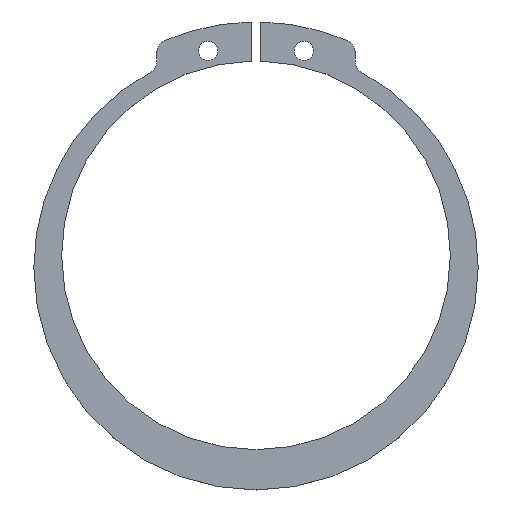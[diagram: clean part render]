
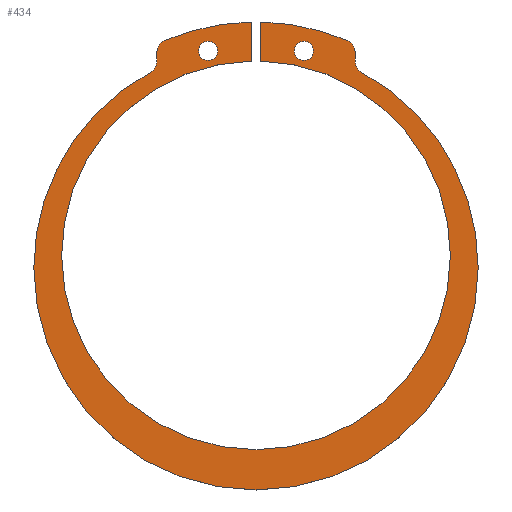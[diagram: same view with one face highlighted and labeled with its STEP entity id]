
A CAD part, top view. The second image highlights one B-rep face of the part: STEP entity #434.
In plain terms, the highlighted planar face has unit normal (0, 0, 1).
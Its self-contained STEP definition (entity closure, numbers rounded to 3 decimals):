
#70=CARTESIAN_POINT('Vertex',(-14.28,33.699,1.25)) ;
#73=CARTESIAN_POINT('Axis2P3D Location',(0.,0.,1.25)) ;
#77=CARTESIAN_POINT('Vertex',(-0.75,36.592,1.25)) ;
#264=CARTESIAN_POINT('Vertex',(-15.5,31.858,1.25)) ;
#267=CARTESIAN_POINT('Axis2P3D Location',(-13.5,31.858,1.25)) ;
#279=CARTESIAN_POINT('Axis2P3D Location',(-17.5,30.466,1.25)) ;
#284=CARTESIAN_POINT('Axis2P3D Location',(-17.5,30.466,1.25)) ;
#288=CARTESIAN_POINT('Vertex',(-16.548,28.707,1.25)) ;
#290=CARTESIAN_POINT('Vertex',(-15.5,30.466,1.25)) ;
#293=CARTESIAN_POINT('Axis2P3D Location',(0.,-1.85,1.25)) ;
#297=CARTESIAN_POINT('Vertex',(-34.75,-1.85,1.25)) ;
#300=CARTESIAN_POINT('Axis2P3D Location',(0.,-1.85,1.25)) ;
#304=CARTESIAN_POINT('Vertex',(34.75,-1.85,1.25)) ;
#307=CARTESIAN_POINT('Axis2P3D Location',(0.,-1.85,1.25)) ;
#311=CARTESIAN_POINT('Vertex',(16.548,28.707,1.25)) ;
#314=CARTESIAN_POINT('Axis2P3D Location',(17.5,30.466,1.25)) ;
#318=CARTESIAN_POINT('Vertex',(15.5,30.466,1.25)) ;
#321=CARTESIAN_POINT('Line Origine',(15.5,31.162,1.25)) ;
#325=CARTESIAN_POINT('Vertex',(15.5,31.858,1.25)) ;
#328=CARTESIAN_POINT('Axis2P3D Location',(13.5,31.858,1.25)) ;
#332=CARTESIAN_POINT('Vertex',(14.28,33.699,1.25)) ;
#335=CARTESIAN_POINT('Axis2P3D Location',(0.,0.,1.25)) ;
#339=CARTESIAN_POINT('Vertex',(0.75,36.592,1.25)) ;
#342=CARTESIAN_POINT('Line Origine',(0.75,33.542,1.25)) ;
#346=CARTESIAN_POINT('Vertex',(0.75,30.491,1.25)) ;
#349=CARTESIAN_POINT('Axis2P3D Location',(0.,0.1,1.25)) ;
#353=CARTESIAN_POINT('Vertex',(30.4,0.1,1.25)) ;
#356=CARTESIAN_POINT('Axis2P3D Location',(0.,0.1,1.25)) ;
#360=CARTESIAN_POINT('Vertex',(-30.4,0.1,1.25)) ;
#363=CARTESIAN_POINT('Axis2P3D Location',(0.,0.1,1.25)) ;
#367=CARTESIAN_POINT('Vertex',(-0.75,30.491,1.25)) ;
#370=CARTESIAN_POINT('Line Origine',(-0.75,33.542,1.25)) ;
#375=CARTESIAN_POINT('Line Origine',(-15.5,31.162,1.25)) ;
#398=CARTESIAN_POINT('Axis2P3D Location',(7.5,32.081,1.25)) ;
#402=CARTESIAN_POINT('Vertex',(6.,32.081,1.25)) ;
#404=CARTESIAN_POINT('Vertex',(9.,32.081,1.25)) ;
#407=CARTESIAN_POINT('Axis2P3D Location',(7.5,32.081,1.25)) ;
#416=CARTESIAN_POINT('Axis2P3D Location',(-7.5,32.081,1.25)) ;
#420=CARTESIAN_POINT('Vertex',(-9.,32.081,1.25)) ;
#422=CARTESIAN_POINT('Vertex',(-6.,32.081,1.25)) ;
#425=CARTESIAN_POINT('Axis2P3D Location',(-7.5,32.081,1.25)) ;
#74=DIRECTION('Axis2P3D Direction',(0.,0.,1.)) ;
#268=DIRECTION('Axis2P3D Direction',(0.,0.,1.)) ;
#280=DIRECTION('Axis2P3D Direction',(0.,0.,1.)) ;
#281=DIRECTION('Axis2P3D XDirection',(1.,0.,-0.)) ;
#285=DIRECTION('Axis2P3D Direction',(0.,0.,1.)) ;
#294=DIRECTION('Axis2P3D Direction',(0.,0.,1.)) ;
#301=DIRECTION('Axis2P3D Direction',(0.,0.,1.)) ;
#308=DIRECTION('Axis2P3D Direction',(0.,0.,1.)) ;
#315=DIRECTION('Axis2P3D Direction',(0.,0.,1.)) ;
#322=DIRECTION('Vector Direction',(0.,1.,0.)) ;
#329=DIRECTION('Axis2P3D Direction',(0.,0.,1.)) ;
#336=DIRECTION('Axis2P3D Direction',(0.,0.,1.)) ;
#343=DIRECTION('Vector Direction',(0.,-1.,0.)) ;
#350=DIRECTION('Axis2P3D Direction',(0.,0.,1.)) ;
#357=DIRECTION('Axis2P3D Direction',(0.,0.,1.)) ;
#364=DIRECTION('Axis2P3D Direction',(0.,0.,1.)) ;
#371=DIRECTION('Vector Direction',(0.,1.,0.)) ;
#376=DIRECTION('Vector Direction',(0.,-1.,0.)) ;
#399=DIRECTION('Axis2P3D Direction',(0.,0.,1.)) ;
#408=DIRECTION('Axis2P3D Direction',(0.,0.,1.)) ;
#417=DIRECTION('Axis2P3D Direction',(0.,0.,1.)) ;
#426=DIRECTION('Axis2P3D Direction',(0.,0.,1.)) ;
#75=AXIS2_PLACEMENT_3D('Circle Axis2P3D',#73,#74,$) ;
#269=AXIS2_PLACEMENT_3D('Circle Axis2P3D',#267,#268,$) ;
#282=AXIS2_PLACEMENT_3D('Plane Axis2P3D',#279,#280,#281) ;
#286=AXIS2_PLACEMENT_3D('Circle Axis2P3D',#284,#285,$) ;
#295=AXIS2_PLACEMENT_3D('Circle Axis2P3D',#293,#294,$) ;
#302=AXIS2_PLACEMENT_3D('Circle Axis2P3D',#300,#301,$) ;
#309=AXIS2_PLACEMENT_3D('Circle Axis2P3D',#307,#308,$) ;
#316=AXIS2_PLACEMENT_3D('Circle Axis2P3D',#314,#315,$) ;
#330=AXIS2_PLACEMENT_3D('Circle Axis2P3D',#328,#329,$) ;
#337=AXIS2_PLACEMENT_3D('Circle Axis2P3D',#335,#336,$) ;
#351=AXIS2_PLACEMENT_3D('Circle Axis2P3D',#349,#350,$) ;
#358=AXIS2_PLACEMENT_3D('Circle Axis2P3D',#356,#357,$) ;
#365=AXIS2_PLACEMENT_3D('Circle Axis2P3D',#363,#364,$) ;
#400=AXIS2_PLACEMENT_3D('Circle Axis2P3D',#398,#399,$) ;
#409=AXIS2_PLACEMENT_3D('Circle Axis2P3D',#407,#408,$) ;
#418=AXIS2_PLACEMENT_3D('Circle Axis2P3D',#416,#417,$) ;
#427=AXIS2_PLACEMENT_3D('Circle Axis2P3D',#425,#426,$) ;
#381=ORIENTED_EDGE('',*,*,#292,.F.) ;
#382=ORIENTED_EDGE('',*,*,#299,.T.) ;
#383=ORIENTED_EDGE('',*,*,#306,.T.) ;
#384=ORIENTED_EDGE('',*,*,#313,.T.) ;
#385=ORIENTED_EDGE('',*,*,#320,.F.) ;
#386=ORIENTED_EDGE('',*,*,#327,.T.) ;
#387=ORIENTED_EDGE('',*,*,#334,.T.) ;
#388=ORIENTED_EDGE('',*,*,#341,.T.) ;
#389=ORIENTED_EDGE('',*,*,#348,.T.) ;
#390=ORIENTED_EDGE('',*,*,#355,.F.) ;
#391=ORIENTED_EDGE('',*,*,#362,.F.) ;
#392=ORIENTED_EDGE('',*,*,#369,.F.) ;
#393=ORIENTED_EDGE('',*,*,#374,.T.) ;
#394=ORIENTED_EDGE('',*,*,#79,.T.) ;
#395=ORIENTED_EDGE('',*,*,#271,.T.) ;
#396=ORIENTED_EDGE('',*,*,#379,.T.) ;
#413=ORIENTED_EDGE('',*,*,#406,.F.) ;
#414=ORIENTED_EDGE('',*,*,#411,.F.) ;
#431=ORIENTED_EDGE('',*,*,#424,.F.) ;
#432=ORIENTED_EDGE('',*,*,#429,.F.) ;
#415=FACE_BOUND('',#412,.T.) ;
#433=FACE_BOUND('',#430,.T.) ;
#323=VECTOR('Line Direction',#322,1.) ;
#344=VECTOR('Line Direction',#343,1.) ;
#372=VECTOR('Line Direction',#371,1.) ;
#377=VECTOR('Line Direction',#376,1.) ;
#434=ADVANCED_FACE('553S-R66',(#397,#415,#433),#283,.T.) ;
#76=CIRCLE('generated circle',#75,36.6) ;
#270=CIRCLE('generated circle',#269,2.) ;
#287=CIRCLE('generated circle',#286,2.) ;
#296=CIRCLE('generated circle',#295,34.75) ;
#303=CIRCLE('generated circle',#302,34.75) ;
#310=CIRCLE('generated circle',#309,34.75) ;
#317=CIRCLE('generated circle',#316,2.) ;
#331=CIRCLE('generated circle',#330,2.) ;
#338=CIRCLE('generated circle',#337,36.6) ;
#352=CIRCLE('generated circle',#351,30.4) ;
#359=CIRCLE('generated circle',#358,30.4) ;
#366=CIRCLE('generated circle',#365,30.4) ;
#401=CIRCLE('generated circle',#400,1.5) ;
#410=CIRCLE('generated circle',#409,1.5) ;
#419=CIRCLE('generated circle',#418,1.5) ;
#428=CIRCLE('generated circle',#427,1.5) ;
#79=EDGE_CURVE('',#78,#71,#76,.T.) ;
#271=EDGE_CURVE('',#71,#265,#270,.T.) ;
#292=EDGE_CURVE('',#289,#291,#287,.T.) ;
#299=EDGE_CURVE('',#289,#298,#296,.T.) ;
#306=EDGE_CURVE('',#298,#305,#303,.T.) ;
#313=EDGE_CURVE('',#305,#312,#310,.T.) ;
#320=EDGE_CURVE('',#319,#312,#317,.T.) ;
#327=EDGE_CURVE('',#319,#326,#324,.T.) ;
#334=EDGE_CURVE('',#326,#333,#331,.T.) ;
#341=EDGE_CURVE('',#333,#340,#338,.T.) ;
#348=EDGE_CURVE('',#340,#347,#345,.T.) ;
#355=EDGE_CURVE('',#354,#347,#352,.T.) ;
#362=EDGE_CURVE('',#361,#354,#359,.T.) ;
#369=EDGE_CURVE('',#368,#361,#366,.T.) ;
#374=EDGE_CURVE('',#368,#78,#373,.T.) ;
#379=EDGE_CURVE('',#265,#291,#378,.T.) ;
#406=EDGE_CURVE('',#403,#405,#401,.T.) ;
#411=EDGE_CURVE('',#405,#403,#410,.T.) ;
#424=EDGE_CURVE('',#421,#423,#419,.T.) ;
#429=EDGE_CURVE('',#423,#421,#428,.T.) ;
#380=EDGE_LOOP('',(#381,#382,#383,#384,#385,#386,#387,#388,#389,#390,#391,#392,#393,#394,#395,#396)) ;
#412=EDGE_LOOP('',(#413,#414)) ;
#430=EDGE_LOOP('',(#431,#432)) ;
#397=FACE_OUTER_BOUND('',#380,.T.) ;
#324=LINE('Line',#321,#323) ;
#345=LINE('Line',#342,#344) ;
#373=LINE('Line',#370,#372) ;
#378=LINE('Line',#375,#377) ;
#283=PLANE('Plane',#282) ;
#71=VERTEX_POINT('',#70) ;
#78=VERTEX_POINT('',#77) ;
#265=VERTEX_POINT('',#264) ;
#289=VERTEX_POINT('',#288) ;
#291=VERTEX_POINT('',#290) ;
#298=VERTEX_POINT('',#297) ;
#305=VERTEX_POINT('',#304) ;
#312=VERTEX_POINT('',#311) ;
#319=VERTEX_POINT('',#318) ;
#326=VERTEX_POINT('',#325) ;
#333=VERTEX_POINT('',#332) ;
#340=VERTEX_POINT('',#339) ;
#347=VERTEX_POINT('',#346) ;
#354=VERTEX_POINT('',#353) ;
#361=VERTEX_POINT('',#360) ;
#368=VERTEX_POINT('',#367) ;
#403=VERTEX_POINT('',#402) ;
#405=VERTEX_POINT('',#404) ;
#421=VERTEX_POINT('',#420) ;
#423=VERTEX_POINT('',#422) ;
